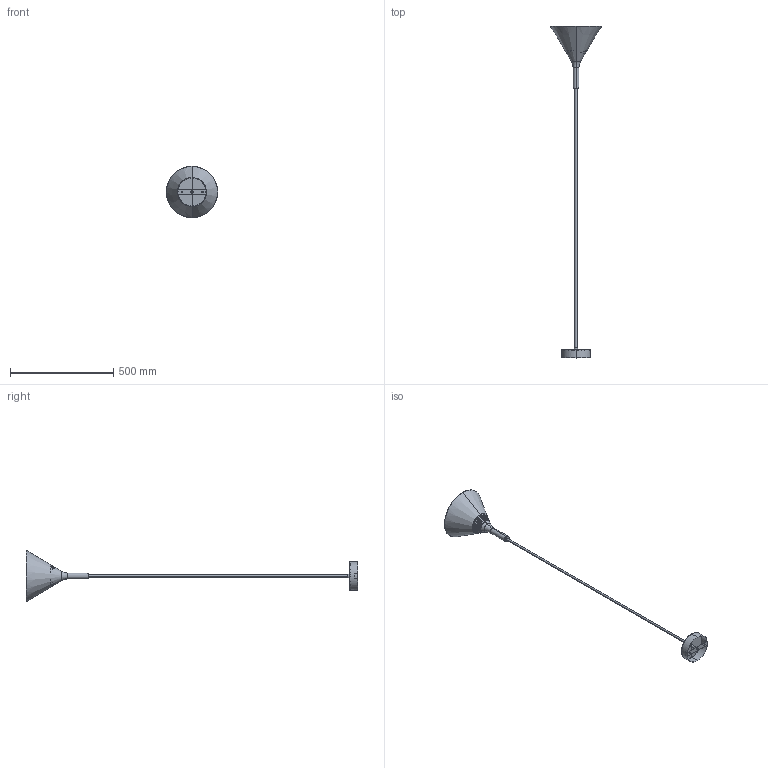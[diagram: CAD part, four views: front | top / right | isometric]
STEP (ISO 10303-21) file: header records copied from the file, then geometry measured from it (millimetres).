
FILE_DESCRIPTION(/* description */ (''),/* implementation_level */ '2;1');
FILE_NAME(/* name */ 'C:\Users\Franco Sartori E\Documents\FARO\Modelos\01_Indoor\2_PAM\03_Publicación\64162_PAM_SUSPENDED_3D.stp',/* time_stamp */ '2020-05-11T14:57:14+02:00',/* author */ ('Franco Sartori E'),/* organization */ (''),/* preprocessor_version */ 'ST-DEVELOPER v18',/* originating_system */ 'AutoCAD Mechanical',/* authorisation */ '');
FILE_SCHEMA (('AUTOMOTIVE_DESIGN { 1 0 10303 214 3 1 1 }'));
Length unit declared in the file: millimetre
Products named in the file (3): Product; 64162_PAM_SUPPORT - PAM LAMP-557782-_3D_ Copy 1; 64162_PAM - PAM LAMP-557781-_3D_ Copy 1
Assembly tree (2 placements, depth 2):
  Product
    64162_PAM_SUPPORT - PAM LAMP-557782-_3D_ Copy 1
    64162_PAM - PAM LAMP-557781-_3D_ Copy 1
Bounding box: 250 x 1610 x 250 mm (x, y, z)
Volume: 483280.2 mm3; surface area: 642620.5 mm2
Topology: 7 solids, 7 shells, 375 faces, 1057 edges, 686 vertices
Faces by surface type: plane 264, cone 65, cylinder 26, torus 16, bspline 4
Entity records: 12368 total; most frequent: CARTESIAN_POINT 2881, ORIENTED_EDGE 2106, DIRECTION 1847, EDGE_CURVE 1053, LINE 707, VECTOR 707, VERTEX_POINT 686, AXIS2_PLACEMENT_3D 570
